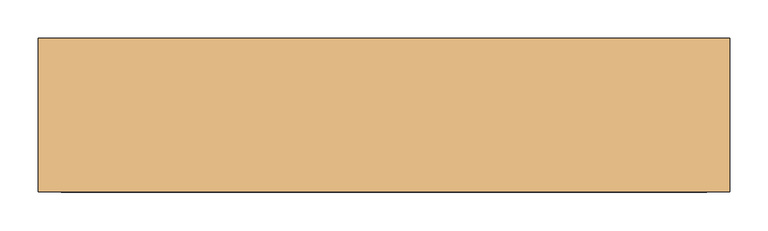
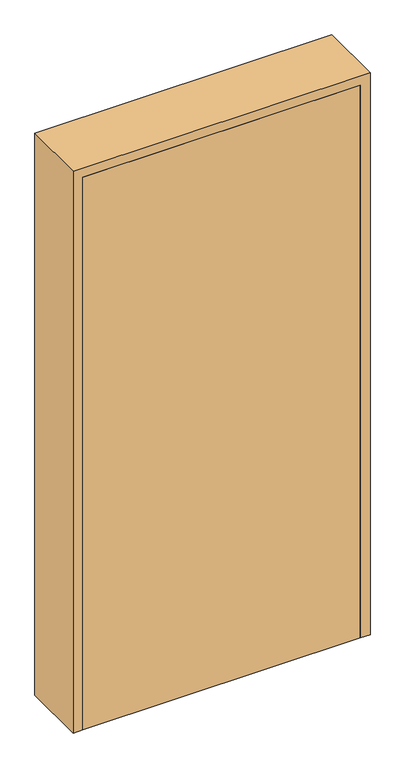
"""IFC4 building model written with IfcOpenShell, lengths in millimetres: door geometry, DR000-문 : DR000-미닫이 문 900x1800."""

from ifc_helpers import new_model, si_unit, origin, origin_with_axes, place, context, project, spatial, polyline, outline, extrude, faceted_brep, source, transform, mapped, element, save


def door_998bb8c2(model_context):
    return source(origin(), model_context, "Body", "SolidModel", [
        extrude(outline(polyline([(420.0, -100.0), (-420.0, -100.0), (-420.0, -70.0), (420.0, -70.0), (420.0, -100.0)])), origin_with_axes(), (0.0, 0.0, 1.0), 1770.0),
        faceted_brep([(-450.0, 100.0, 0.0), (-390.0, 100.0, 0.0), (-390.0, -70.0, 0.0), (-420.0, -70.0, 0.0), (-420.0, -100.0, 0.0), (-450.0, -100.0, 0.0), (-450.0, -100.0, 1800.0), (-450.0, 100.0, 1800.0), (-420.0, -100.0, 1770.0), (420.0, -100.0, 1770.0), (420.0, -100.0, 0.0), (450.0, -100.0, 0.0), (450.0, -100.0, 1800.0), (-420.0, -70.0, 1770.0), (-390.0, -70.0, 1740.0), (390.0, -70.0, 1740.0), (390.0, -70.0, 0.0), (420.0, -70.0, 0.0), (420.0, -70.0, 1770.0), (-390.0, 100.0, 1740.0), (450.0, 100.0, 1800.0), (450.0, 100.0, 0.0), (390.0, 100.0, 0.0), (390.0, 100.0, 1740.0)], [[[0, 1, 2, 3, 4, 5]], [[5, 6, 7, 0]], [[4, 8, 9, 10, 11, 12, 6, 5]], [[3, 13, 8, 4]], [[2, 14, 15, 16, 17, 18, 13, 3]], [[1, 19, 14, 2]], [[0, 7, 20, 21, 22, 23, 19, 1]], [[6, 12, 20, 7]], [[13, 18, 9, 8]], [[19, 23, 15, 14]], [[21, 11, 10, 17, 16, 22]], [[12, 11, 21, 20]], [[18, 17, 10, 9]], [[23, 22, 16, 15]]]),
    ])


if __name__ == "__main__":
    model = new_model("IFC4")
    model_context = context("Model", 3, world=origin())
    ifc_project = project(units=[si_unit("LENGTHUNIT", "METRE", prefix="MILLI")], contexts=[model_context])
    site = spatial("IfcSite", under=ifc_project)
    building = spatial("IfcBuilding", under=site)
    placement = place(None, origin())
    door_shape = door_998bb8c2(model_context)
    element("IfcDoor", 1, ObjectType="DR000-문 : DR000-미닫이 문 900x1800", at=placement, inside=building, context=model_context, shape_type="MappedRepresentation", body=[
        mapped(door_shape, transform((0.0, 0.0, 0.0), x_axis=(1.0, 0.0, 0.0), y_axis=(0.0, 1.0, 0.0), z_axis=(0.0, 0.0, 1.0))),
    ])
    save(model, "model.ifc")
